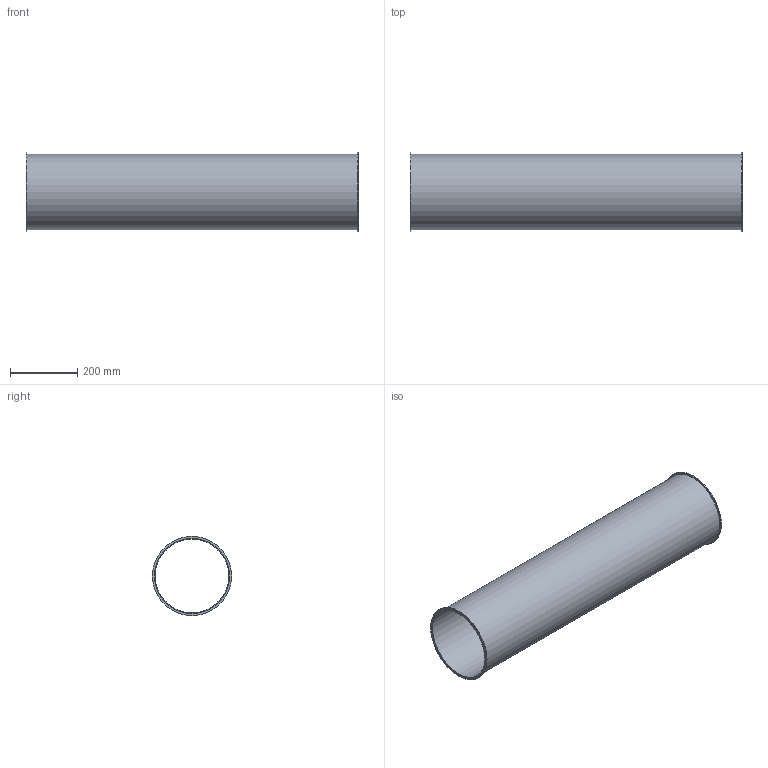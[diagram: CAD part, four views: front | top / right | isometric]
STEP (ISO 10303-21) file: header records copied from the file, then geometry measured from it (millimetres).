
FILE_DESCRIPTION((''),'2;1');
FILE_NAME('U:\Wolfgang\Marcel-3D\fertig\Kapitel 1\2221002.stp','2010-05-31T11:31:36',('TK2'),(''),'Autodesk Inventor 2010','Autodesk Inventor 2010','');
FILE_SCHEMA(('AUTOMOTIVE_DESIGN { 1 0 10303 214 1 1 1 1 }'));
Length unit declared in the file: millimetre
Products named in the file (1): 2221002
Bounding box: 986 x 235 x 235 mm (x, y, z)
Volume: 1386410 mm3; surface area: 1389337.9 mm2
Topology: 1 solids, 1 shells, 8 faces, 12 edges, 8 vertices
Faces by surface type: cylinder 4, plane 4
Full cylindrical faces by diameter (mm): 219 x1, 223 x1, 235 x2
Entity records: 194 total; most frequent: DIRECTION 34, CARTESIAN_POINT 25, AXIS2_PLACEMENT_3D 17, ORIENTED_EDGE 16, EDGE_LOOP 16, VERTEX_POINT 8, CIRCLE 8, EDGE_CURVE 8
